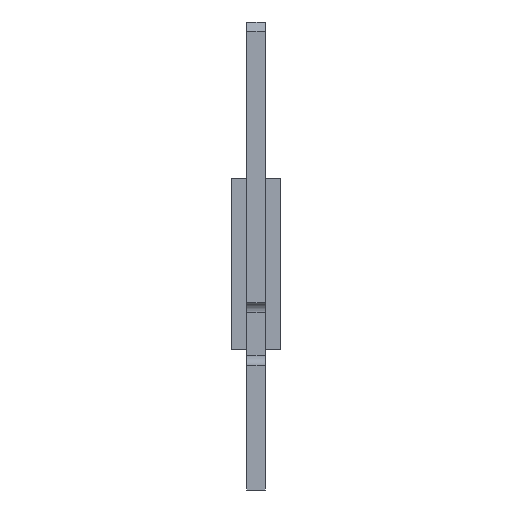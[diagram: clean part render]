
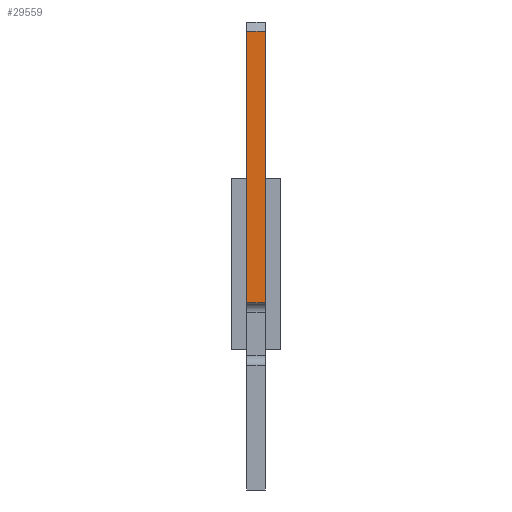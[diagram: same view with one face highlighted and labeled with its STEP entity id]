
A CAD part, left-side view. The second image highlights one B-rep face of the part: STEP entity #29559.
In plain terms, the highlighted planar face has unit normal (-1, 0, 0).
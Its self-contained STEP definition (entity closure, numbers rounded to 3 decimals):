
#218=DIRECTION('',(0.,0.,1.));
#219=VECTOR('',#218,17.4);
#220=CARTESIAN_POINT('',(-34.8,-0.6,-3.));
#221=LINE('',#220,#219);
#3918=DIRECTION('',(0.,0.,1.));
#3919=VECTOR('',#3918,17.4);
#3920=CARTESIAN_POINT('',(-34.8,0.6,-3.));
#3921=LINE('',#3920,#3919);
#7738=DIRECTION('',(0.,-1.,0.));
#7739=VECTOR('',#7738,1.2);
#7740=CARTESIAN_POINT('',(-34.8,0.6,14.4));
#7741=LINE('',#7740,#7739);
#7745=DIRECTION('',(0.,1.,0.));
#7746=VECTOR('',#7745,1.2);
#7747=CARTESIAN_POINT('',(-34.8,-0.6,-3.));
#7748=LINE('',#7747,#7746);
#25541=CARTESIAN_POINT('',(-34.8,-0.6,-3.));
#25543=VERTEX_POINT('',#25541);
#25561=CARTESIAN_POINT('',(-34.8,0.6,-3.));
#25563=VERTEX_POINT('',#25561);
#25571=CARTESIAN_POINT('',(-34.8,-0.6,14.4));
#25573=VERTEX_POINT('',#25571);
#25574=CARTESIAN_POINT('',(-34.8,0.6,14.4));
#25575=VERTEX_POINT('',#25574);
#29547=CARTESIAN_POINT('',(-34.8,-0.6,-3.));
#29548=DIRECTION('',(-1.,0.,0.));
#29549=DIRECTION('',(0.,0.,1.));
#29550=AXIS2_PLACEMENT_3D('',#29547,#29548,#29549);
#29551=PLANE('',#29550);
#29552=ORIENTED_EDGE('',*,*,#29539,.T.);
#29553=ORIENTED_EDGE('',*,*,#26789,.F.);
#29555=ORIENTED_EDGE('',*,*,#29554,.T.);
#29556=ORIENTED_EDGE('',*,*,#28141,.T.);
#29557=EDGE_LOOP('',(#29552,#29553,#29555,#29556));
#29558=FACE_OUTER_BOUND('',#29557,.F.);
#26789=EDGE_CURVE('',#25543,#25573,#221,.T.);
#28141=EDGE_CURVE('',#25563,#25575,#3921,.T.);
#29539=EDGE_CURVE('',#25575,#25573,#7741,.T.);
#29554=EDGE_CURVE('',#25543,#25563,#7748,.T.);
#29559=ADVANCED_FACE('',(#29558),#29551,.T.);
